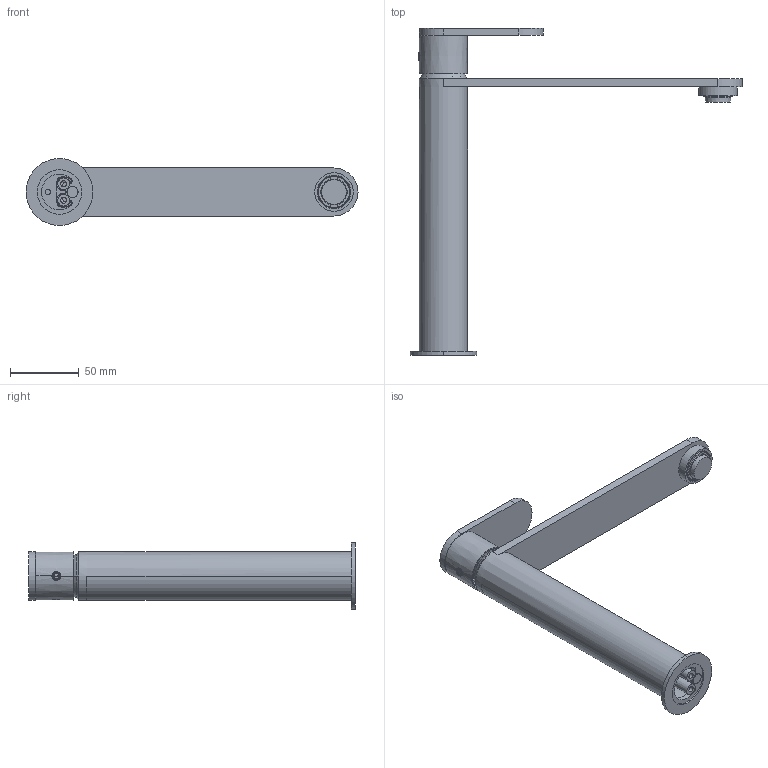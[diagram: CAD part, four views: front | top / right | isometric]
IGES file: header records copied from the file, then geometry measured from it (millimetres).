
Start section:  PTC IGES file: 79040.igs
Global section: file name: 79040.igs; native system: Creo Parametric by PTC Inc.; preprocessor: 2025443; author: carloff; organization: Unknown; date: 20261005.141711; units: millimetre
Bounding box: 241.9 x 238.24 x 48.8 mm (x, y, z)
Surface area: 116697.9 mm2 (no closed solid volume)
Topology: 0 solids, 0 shells, 1174 faces, 5845 edges, 5774 vertices
Faces by surface type: revolution 797, bspline 377
